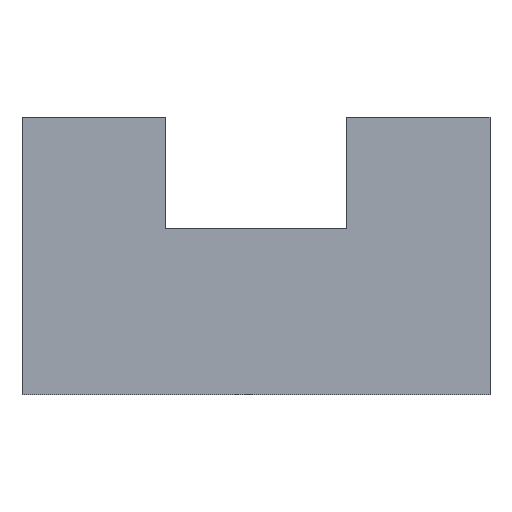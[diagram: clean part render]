
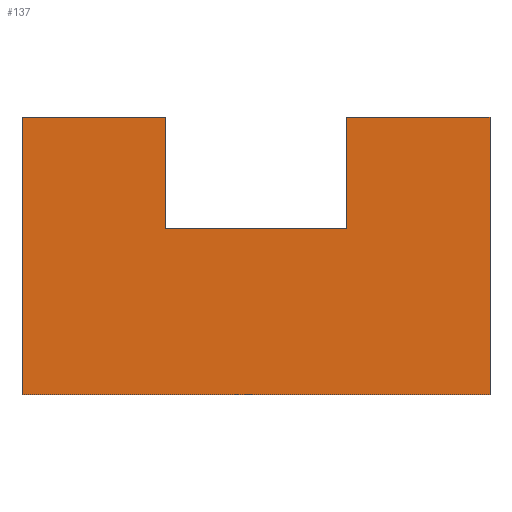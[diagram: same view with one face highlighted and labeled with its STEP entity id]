
A CAD part, left-side view. The second image highlights one B-rep face of the part: STEP entity #137.
In plain terms, the highlighted planar face has unit normal (-1, 0, 0).
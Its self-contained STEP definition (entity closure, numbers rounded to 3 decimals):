
#21 = EDGE_CURVE('',#22,#24,#26,.T.);
#22 = VERTEX_POINT('',#23);
#23 = CARTESIAN_POINT('',(-32.5,-16.,0.));
#24 = VERTEX_POINT('',#25);
#25 = CARTESIAN_POINT('',(-32.5,16.,0.));
#26 = SURFACE_CURVE('',#27,(#31,#43),.PCURVE_S1.);
#27 = LINE('',#28,#29);
#28 = CARTESIAN_POINT('',(-32.5,-16.,0.));
#29 = VECTOR('',#30,1.);
#30 = DIRECTION('',(0.,1.,0.));
#31 = PCURVE('',#32,#37);
#32 = PLANE('',#33);
#33 = AXIS2_PLACEMENT_3D('',#34,#35,#36);
#34 = CARTESIAN_POINT('',(-32.5,-16.,0.));
#35 = DIRECTION('',(0.,0.,1.));
#36 = DIRECTION('',(1.,0.,0.));
#37 = DEFINITIONAL_REPRESENTATION('',(#38),#42);
#38 = LINE('',#39,#40);
#39 = CARTESIAN_POINT('',(0.,0.));
#40 = VECTOR('',#41,1.);
#41 = DIRECTION('',(0.,1.));
#42 = ( GEOMETRIC_REPRESENTATION_CONTEXT(2) 
PARAMETRIC_REPRESENTATION_CONTEXT() REPRESENTATION_CONTEXT('2D SPACE',''
  ) );
#43 = PCURVE('',#44,#49);
#44 = PLANE('',#45);
#45 = AXIS2_PLACEMENT_3D('',#46,#47,#48);
#46 = CARTESIAN_POINT('',(-32.5,26.,0.));
#47 = DIRECTION('',(1.,0.,-0.));
#48 = DIRECTION('',(0.,-1.,0.));
#49 = DEFINITIONAL_REPRESENTATION('',(#50),#54);
#50 = LINE('',#51,#52);
#51 = CARTESIAN_POINT('',(42.,0.));
#52 = VECTOR('',#53,1.);
#53 = DIRECTION('',(-1.,0.));
#54 = ( GEOMETRIC_REPRESENTATION_CONTEXT(2) 
PARAMETRIC_REPRESENTATION_CONTEXT() REPRESENTATION_CONTEXT('2D SPACE',''
  ) );
#72 = PLANE('',#73);
#73 = AXIS2_PLACEMENT_3D('',#74,#75,#76);
#74 = CARTESIAN_POINT('',(-32.5,-16.,0.));
#75 = DIRECTION('',(0.,1.,0.));
#76 = DIRECTION('',(0.,0.,1.));
#126 = PLANE('',#127);
#127 = AXIS2_PLACEMENT_3D('',#128,#129,#130);
#128 = CARTESIAN_POINT('',(-32.5,16.,0.));
#129 = DIRECTION('',(0.,1.,0.));
#130 = DIRECTION('',(0.,0.,1.));
#137 = ADVANCED_FACE('',(#138),#44,.F.);
#138 = FACE_BOUND('',#139,.F.);
#139 = EDGE_LOOP('',(#140,#141,#164,#192,#218,#244,#270,#298));
#140 = ORIENTED_EDGE('',*,*,#21,.T.);
#141 = ORIENTED_EDGE('',*,*,#142,.T.);
#142 = EDGE_CURVE('',#24,#143,#145,.T.);
#143 = VERTEX_POINT('',#144);
#144 = CARTESIAN_POINT('',(-32.5,16.,19.));
#145 = SURFACE_CURVE('',#146,(#150,#157),.PCURVE_S1.);
#146 = LINE('',#147,#148);
#147 = CARTESIAN_POINT('',(-32.5,16.,0.));
#148 = VECTOR('',#149,1.);
#149 = DIRECTION('',(0.,0.,1.));
#150 = PCURVE('',#44,#151);
#151 = DEFINITIONAL_REPRESENTATION('',(#152),#156);
#152 = LINE('',#153,#154);
#153 = CARTESIAN_POINT('',(10.,0.));
#154 = VECTOR('',#155,1.);
#155 = DIRECTION('',(0.,-1.));
#156 = ( GEOMETRIC_REPRESENTATION_CONTEXT(2) 
PARAMETRIC_REPRESENTATION_CONTEXT() REPRESENTATION_CONTEXT('2D SPACE',''
  ) );
#157 = PCURVE('',#126,#158);
#158 = DEFINITIONAL_REPRESENTATION('',(#159),#163);
#159 = LINE('',#160,#161);
#160 = CARTESIAN_POINT('',(0.,0.));
#161 = VECTOR('',#162,1.);
#162 = DIRECTION('',(1.,0.));
#163 = ( GEOMETRIC_REPRESENTATION_CONTEXT(2) 
PARAMETRIC_REPRESENTATION_CONTEXT() REPRESENTATION_CONTEXT('2D SPACE',''
  ) );
#164 = ORIENTED_EDGE('',*,*,#165,.F.);
#165 = EDGE_CURVE('',#166,#143,#168,.T.);
#166 = VERTEX_POINT('',#167);
#167 = CARTESIAN_POINT('',(-32.5,6.2,19.));
#168 = SURFACE_CURVE('',#169,(#173,#180),.PCURVE_S1.);
#169 = LINE('',#170,#171);
#170 = CARTESIAN_POINT('',(-32.5,-16.,19.));
#171 = VECTOR('',#172,1.);
#172 = DIRECTION('',(0.,1.,0.));
#173 = PCURVE('',#44,#174);
#174 = DEFINITIONAL_REPRESENTATION('',(#175),#179);
#175 = LINE('',#176,#177);
#176 = CARTESIAN_POINT('',(42.,-19.));
#177 = VECTOR('',#178,1.);
#178 = DIRECTION('',(-1.,0.));
#179 = ( GEOMETRIC_REPRESENTATION_CONTEXT(2) 
PARAMETRIC_REPRESENTATION_CONTEXT() REPRESENTATION_CONTEXT('2D SPACE',''
  ) );
#180 = PCURVE('',#181,#186);
#181 = PLANE('',#182);
#182 = AXIS2_PLACEMENT_3D('',#183,#184,#185);
#183 = CARTESIAN_POINT('',(-32.5,-16.,19.));
#184 = DIRECTION('',(0.,0.,1.));
#185 = DIRECTION('',(1.,0.,0.));
#186 = DEFINITIONAL_REPRESENTATION('',(#187),#191);
#187 = LINE('',#188,#189);
#188 = CARTESIAN_POINT('',(0.,0.));
#189 = VECTOR('',#190,1.);
#190 = DIRECTION('',(0.,1.));
#191 = ( GEOMETRIC_REPRESENTATION_CONTEXT(2) 
PARAMETRIC_REPRESENTATION_CONTEXT() REPRESENTATION_CONTEXT('2D SPACE',''
  ) );
#192 = ORIENTED_EDGE('',*,*,#193,.F.);
#193 = EDGE_CURVE('',#194,#166,#196,.T.);
#194 = VERTEX_POINT('',#195);
#195 = CARTESIAN_POINT('',(-32.5,6.2,11.4));
#196 = SURFACE_CURVE('',#197,(#201,#207),.PCURVE_S1.);
#197 = LINE('',#198,#199);
#198 = CARTESIAN_POINT('',(-32.5,6.2,5.7));
#199 = VECTOR('',#200,1.);
#200 = DIRECTION('',(0.,-0.,1.));
#201 = PCURVE('',#44,#202);
#202 = DEFINITIONAL_REPRESENTATION('',(#203),#206);
#203 = B_SPLINE_CURVE_WITH_KNOTS('',1,(#204,#205),.UNSPECIFIED.,.F.,.F.,
  (2,2),(5.7,23.3),.PIECEWISE_BEZIER_KNOTS.);
#204 = CARTESIAN_POINT('',(19.8,-11.4));
#205 = CARTESIAN_POINT('',(19.8,-29.));
#206 = ( GEOMETRIC_REPRESENTATION_CONTEXT(2) 
PARAMETRIC_REPRESENTATION_CONTEXT() REPRESENTATION_CONTEXT('2D SPACE',''
  ) );
#207 = PCURVE('',#208,#213);
#208 = PLANE('',#209);
#209 = AXIS2_PLACEMENT_3D('',#210,#211,#212);
#210 = CARTESIAN_POINT('',(-35.5,6.2,11.4));
#211 = DIRECTION('',(0.,1.,0.));
#212 = DIRECTION('',(0.,0.,1.));
#213 = DEFINITIONAL_REPRESENTATION('',(#214),#217);
#214 = B_SPLINE_CURVE_WITH_KNOTS('',1,(#215,#216),.UNSPECIFIED.,.F.,.F.,
  (2,2),(5.7,23.3),.PIECEWISE_BEZIER_KNOTS.);
#215 = CARTESIAN_POINT('',(0.,3.));
#216 = CARTESIAN_POINT('',(17.6,3.));
#217 = ( GEOMETRIC_REPRESENTATION_CONTEXT(2) 
PARAMETRIC_REPRESENTATION_CONTEXT() REPRESENTATION_CONTEXT('2D SPACE',''
  ) );
#218 = ORIENTED_EDGE('',*,*,#219,.T.);
#219 = EDGE_CURVE('',#194,#220,#222,.T.);
#220 = VERTEX_POINT('',#221);
#221 = CARTESIAN_POINT('',(-32.5,-6.2,11.4));
#222 = SURFACE_CURVE('',#223,(#227,#233),.PCURVE_S1.);
#223 = LINE('',#224,#225);
#224 = CARTESIAN_POINT('',(-32.5,9.9,11.4));
#225 = VECTOR('',#226,1.);
#226 = DIRECTION('',(0.,-1.,0.));
#227 = PCURVE('',#44,#228);
#228 = DEFINITIONAL_REPRESENTATION('',(#229),#232);
#229 = B_SPLINE_CURVE_WITH_KNOTS('',1,(#230,#231),.UNSPECIFIED.,.F.,.F.,
  (2,2),(3.7,16.1),.PIECEWISE_BEZIER_KNOTS.);
#230 = CARTESIAN_POINT('',(19.8,-11.4));
#231 = CARTESIAN_POINT('',(32.2,-11.4));
#232 = ( GEOMETRIC_REPRESENTATION_CONTEXT(2) 
PARAMETRIC_REPRESENTATION_CONTEXT() REPRESENTATION_CONTEXT('2D SPACE',''
  ) );
#233 = PCURVE('',#234,#239);
#234 = PLANE('',#235);
#235 = AXIS2_PLACEMENT_3D('',#236,#237,#238);
#236 = CARTESIAN_POINT('',(-35.5,-6.2,11.4));
#237 = DIRECTION('',(0.,0.,1.));
#238 = DIRECTION('',(1.,0.,0.));
#239 = DEFINITIONAL_REPRESENTATION('',(#240),#243);
#240 = B_SPLINE_CURVE_WITH_KNOTS('',1,(#241,#242),.UNSPECIFIED.,.F.,.F.,
  (2,2),(3.7,16.1),.PIECEWISE_BEZIER_KNOTS.);
#241 = CARTESIAN_POINT('',(3.,12.4));
#242 = CARTESIAN_POINT('',(3.,0.));
#243 = ( GEOMETRIC_REPRESENTATION_CONTEXT(2) 
PARAMETRIC_REPRESENTATION_CONTEXT() REPRESENTATION_CONTEXT('2D SPACE',''
  ) );
#244 = ORIENTED_EDGE('',*,*,#245,.T.);
#245 = EDGE_CURVE('',#220,#246,#248,.T.);
#246 = VERTEX_POINT('',#247);
#247 = CARTESIAN_POINT('',(-32.5,-6.2,19.));
#248 = SURFACE_CURVE('',#249,(#253,#259),.PCURVE_S1.);
#249 = LINE('',#250,#251);
#250 = CARTESIAN_POINT('',(-32.5,-6.2,5.7));
#251 = VECTOR('',#252,1.);
#252 = DIRECTION('',(0.,-0.,1.));
#253 = PCURVE('',#44,#254);
#254 = DEFINITIONAL_REPRESENTATION('',(#255),#258);
#255 = B_SPLINE_CURVE_WITH_KNOTS('',1,(#256,#257),.UNSPECIFIED.,.F.,.F.,
  (2,2),(5.7,23.3),.PIECEWISE_BEZIER_KNOTS.);
#256 = CARTESIAN_POINT('',(32.2,-11.4));
#257 = CARTESIAN_POINT('',(32.2,-29.));
#258 = ( GEOMETRIC_REPRESENTATION_CONTEXT(2) 
PARAMETRIC_REPRESENTATION_CONTEXT() REPRESENTATION_CONTEXT('2D SPACE',''
  ) );
#259 = PCURVE('',#260,#265);
#260 = PLANE('',#261);
#261 = AXIS2_PLACEMENT_3D('',#262,#263,#264);
#262 = CARTESIAN_POINT('',(-35.5,-6.2,11.4));
#263 = DIRECTION('',(0.,1.,0.));
#264 = DIRECTION('',(0.,0.,1.));
#265 = DEFINITIONAL_REPRESENTATION('',(#266),#269);
#266 = B_SPLINE_CURVE_WITH_KNOTS('',1,(#267,#268),.UNSPECIFIED.,.F.,.F.,
  (2,2),(5.7,23.3),.PIECEWISE_BEZIER_KNOTS.);
#267 = CARTESIAN_POINT('',(0.,3.));
#268 = CARTESIAN_POINT('',(17.6,3.));
#269 = ( GEOMETRIC_REPRESENTATION_CONTEXT(2) 
PARAMETRIC_REPRESENTATION_CONTEXT() REPRESENTATION_CONTEXT('2D SPACE',''
  ) );
#270 = ORIENTED_EDGE('',*,*,#271,.F.);
#271 = EDGE_CURVE('',#272,#246,#274,.T.);
#272 = VERTEX_POINT('',#273);
#273 = CARTESIAN_POINT('',(-32.5,-16.,19.));
#274 = SURFACE_CURVE('',#275,(#279,#286),.PCURVE_S1.);
#275 = LINE('',#276,#277);
#276 = CARTESIAN_POINT('',(-32.5,-16.,19.));
#277 = VECTOR('',#278,1.);
#278 = DIRECTION('',(0.,1.,0.));
#279 = PCURVE('',#44,#280);
#280 = DEFINITIONAL_REPRESENTATION('',(#281),#285);
#281 = LINE('',#282,#283);
#282 = CARTESIAN_POINT('',(42.,-19.));
#283 = VECTOR('',#284,1.);
#284 = DIRECTION('',(-1.,0.));
#285 = ( GEOMETRIC_REPRESENTATION_CONTEXT(2) 
PARAMETRIC_REPRESENTATION_CONTEXT() REPRESENTATION_CONTEXT('2D SPACE',''
  ) );
#286 = PCURVE('',#287,#292);
#287 = PLANE('',#288);
#288 = AXIS2_PLACEMENT_3D('',#289,#290,#291);
#289 = CARTESIAN_POINT('',(-32.5,-16.,19.));
#290 = DIRECTION('',(0.,0.,1.));
#291 = DIRECTION('',(1.,0.,0.));
#292 = DEFINITIONAL_REPRESENTATION('',(#293),#297);
#293 = LINE('',#294,#295);
#294 = CARTESIAN_POINT('',(0.,0.));
#295 = VECTOR('',#296,1.);
#296 = DIRECTION('',(0.,1.));
#297 = ( GEOMETRIC_REPRESENTATION_CONTEXT(2) 
PARAMETRIC_REPRESENTATION_CONTEXT() REPRESENTATION_CONTEXT('2D SPACE',''
  ) );
#298 = ORIENTED_EDGE('',*,*,#299,.F.);
#299 = EDGE_CURVE('',#22,#272,#300,.T.);
#300 = SURFACE_CURVE('',#301,(#305,#312),.PCURVE_S1.);
#301 = LINE('',#302,#303);
#302 = CARTESIAN_POINT('',(-32.5,-16.,0.));
#303 = VECTOR('',#304,1.);
#304 = DIRECTION('',(0.,0.,1.));
#305 = PCURVE('',#44,#306);
#306 = DEFINITIONAL_REPRESENTATION('',(#307),#311);
#307 = LINE('',#308,#309);
#308 = CARTESIAN_POINT('',(42.,0.));
#309 = VECTOR('',#310,1.);
#310 = DIRECTION('',(0.,-1.));
#311 = ( GEOMETRIC_REPRESENTATION_CONTEXT(2) 
PARAMETRIC_REPRESENTATION_CONTEXT() REPRESENTATION_CONTEXT('2D SPACE',''
  ) );
#312 = PCURVE('',#72,#313);
#313 = DEFINITIONAL_REPRESENTATION('',(#314),#318);
#314 = LINE('',#315,#316);
#315 = CARTESIAN_POINT('',(0.,0.));
#316 = VECTOR('',#317,1.);
#317 = DIRECTION('',(1.,0.));
#318 = ( GEOMETRIC_REPRESENTATION_CONTEXT(2) 
PARAMETRIC_REPRESENTATION_CONTEXT() REPRESENTATION_CONTEXT('2D SPACE',''
  ) );
